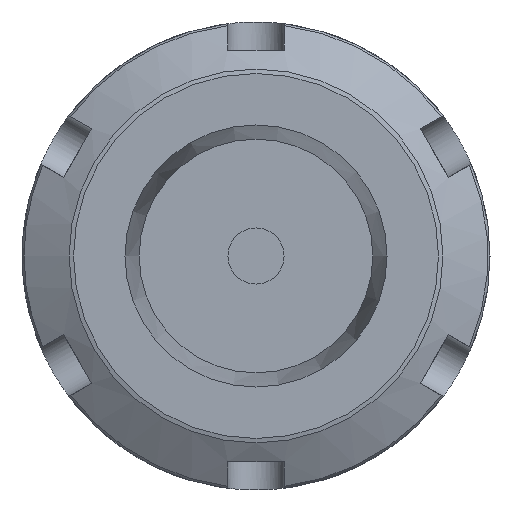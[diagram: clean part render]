
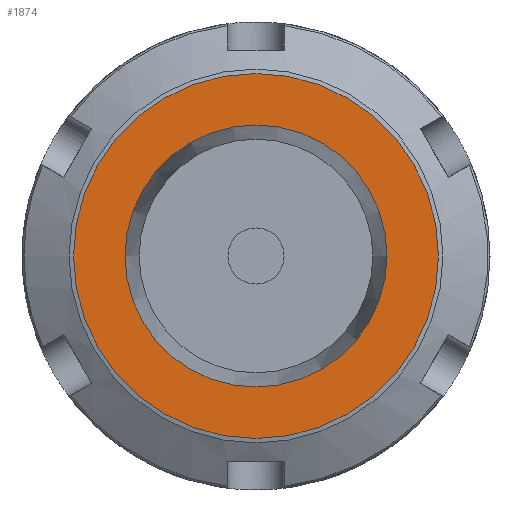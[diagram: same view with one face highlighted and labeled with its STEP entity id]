
A CAD part, front view. The second image highlights one B-rep face of the part: STEP entity #1874.
In plain terms, the highlighted planar face has unit normal (0, -1, 0) as drawn and (0, 0, -1) by its records, which use the part's own axes.
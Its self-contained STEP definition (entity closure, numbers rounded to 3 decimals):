
#63=FACE_BOUND('',#355,.T.);
#148=PLANE('',#2182);
#246=FACE_OUTER_BOUND('',#354,.T.);
#354=EDGE_LOOP('',(#1632));
#355=EDGE_LOOP('',(#1633));
#672=CIRCLE('',#2171,14.001);
#679=CIRCLE('',#2181,19.5);
#849=VERTEX_POINT('',#3553);
#856=VERTEX_POINT('',#3572);
#1108=EDGE_CURVE('',#849,#849,#672,.T.);
#1118=EDGE_CURVE('',#856,#856,#679,.T.);
#1632=ORIENTED_EDGE('',*,*,#1118,.F.);
#1633=ORIENTED_EDGE('',*,*,#1108,.T.);
#1874=ADVANCED_FACE('',(#246,#63),#148,.F.);
#2171=AXIS2_PLACEMENT_3D('',#3554,#2711,#2712);
#2181=AXIS2_PLACEMENT_3D('',#3574,#2734,#2735);
#2182=AXIS2_PLACEMENT_3D('',#3575,#2736,#2737);
#2711=DIRECTION('center_axis',(0.,0.,1.));
#2712=DIRECTION('ref_axis',(0.,-1.,0.));
#2734=DIRECTION('center_axis',(0.,0.,1.));
#2735=DIRECTION('ref_axis',(-1.,0.,0.));
#2736=DIRECTION('center_axis',(0.,0.,1.));
#2737=DIRECTION('ref_axis',(1.,0.,0.));
#3553=CARTESIAN_POINT('',(0.,14.001,0.));
#3554=CARTESIAN_POINT('Origin',(0.,0.,0.));
#3572=CARTESIAN_POINT('',(19.5,0.,0.));
#3574=CARTESIAN_POINT('Origin',(0.,0.,0.));
#3575=CARTESIAN_POINT('Origin',(0.,0.,0.));
